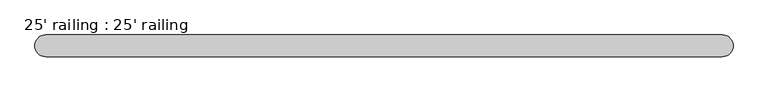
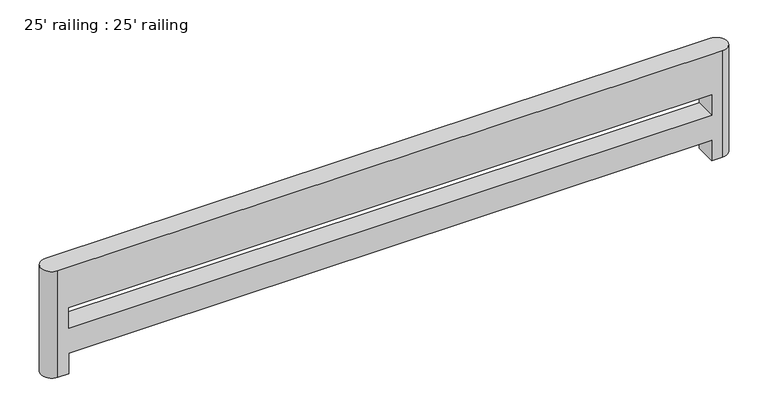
"""IFC4 building model written with IfcOpenShell, lengths in millimetres: railing geometry, 25' railing : 25' railing."""

from ifc_helpers import new_model, si_unit, frame, origin, place, context, project, spatial, circle_curve, source, transform, mapped, element, save
from ifc_brep_helpers import plane_surface, cylinder_surface, advanced_brep


def railing_25_railing_25_railing_fa361975(model_context):
    return source(origin(), model_context, "Body", "AdvancedBrep", [
        advanced_brep(
        [(3149.6, -101.6, 1066.8), (3149.6, 101.6, 1066.8), (-3149.6, 101.6, 1066.8), (-3149.6, -101.6, 1066.8), (3149.6, -101.6, 0.0), (3048.0, -101.6, 0.0), (3048.0, 101.6, 0.0), (3149.6, 101.6, 0.0), (-3149.6, 101.6, 0.0), (-3048.0, 101.6, 0.0), (-3048.0, -101.6, 0.0), (-3149.6, -101.6, 0.0), (-3048.0, -101.6, 203.2), (3048.0, -101.6, 203.2), (-3048.0, -101.6, 660.4), (3048.0, -101.6, 660.4), (3048.0, -101.6, 457.2), (-3048.0, -101.6, 457.2), (3048.0, 101.6, 203.2), (-3048.0, 101.6, 203.2), (-3048.0, 101.6, 457.2), (3048.0, 101.6, 457.2), (3048.0, 101.6, 660.4), (-3048.0, 101.6, 660.4)],
        [
            (0, 1, circle_curve(frame((3149.6, 0.0, 1066.8), z_axis=(0.0, 0.0, 1.0), x_axis=(1.0, 0.0, 0.0)), 101.6)),
            (1, 2),
            (2, 3, circle_curve(frame((-3149.6, 0.0, 1066.8), z_axis=(0.0, 0.0, 1.0), x_axis=(1.0, 0.0, 0.0)), 101.6)),
            (3, 0),
            (4, 5),
            (5, 6),
            (6, 7),
            (7, 4, circle_curve(frame((3149.6, 0.0, 0.0), z_axis=(0.0, 0.0, -1.0), x_axis=(1.0, 0.0, 0.0)), 101.6)),
            (8, 9),
            (9, 10),
            (10, 11),
            (11, 8, circle_curve(frame((-3149.6, 0.0, 0.0), z_axis=(0.0, 0.0, -1.0), x_axis=(1.0, 0.0, 0.0)), 101.6)),
            (3, 11),
            (10, 12),
            (12, 13),
            (13, 5),
            (4, 0),
            (14, 15),
            (15, 16),
            (16, 17),
            (17, 14),
            (2, 8),
            (1, 7),
            (6, 18),
            (18, 19),
            (19, 9),
            (20, 21),
            (21, 22),
            (22, 23),
            (23, 20),
            (13, 18),
            (12, 19),
            (23, 14),
            (17, 20),
            (16, 21),
            (15, 22),
        ],
        [
            plane_surface(frame((-3251.2, -101.6, 1066.8), z_axis=(0.0, 0.0, 1.0), x_axis=(-1.0, 0.0, 0.0))),
            plane_surface(frame((-3251.2, -101.6, 0.0), z_axis=(0.0, 0.0, -1.0), x_axis=(1.0, 0.0, 0.0))),
            plane_surface(frame((3149.6, -101.6, 1066.8), z_axis=(0.0, -1.0, 0.0), x_axis=(0.0, 0.0, -1.0))),
            cylinder_surface(frame((-3149.6, 0.0, 0.0), z_axis=(0.0, 0.0, 1.0), x_axis=(1.0, 0.0, 0.0)), 101.6),
            plane_surface(frame((-3149.6, 101.6, 1066.8), z_axis=(0.0, 1.0, 0.0), x_axis=(0.0, 0.0, -1.0))),
            cylinder_surface(frame((3149.6, 0.0, 0.0), z_axis=(0.0, 0.0, 1.0), x_axis=(1.0, 0.0, 0.0)), 101.6),
            plane_surface(frame((3048.0, 101.6, 0.0), z_axis=(-1.0, 0.0, 0.0), x_axis=(0.0, -1.0, 0.0))),
            plane_surface(frame((3048.0, 101.6, 203.2), z_axis=(0.0, 0.0, -1.0), x_axis=(0.0, -1.0, 0.0))),
            plane_surface(frame((-3048.0, 101.6, 203.2), z_axis=(1.0, 0.0, 0.0), x_axis=(0.0, -1.0, 0.0))),
            plane_surface(frame((-3048.0, 101.6, 660.4), z_axis=(1.0, 0.0, 0.0), x_axis=(0.0, -1.0, 0.0))),
            plane_surface(frame((-3048.0, 101.6, 457.2), z_axis=(0.0, 0.0, 1.0), x_axis=(0.0, -1.0, 0.0))),
            plane_surface(frame((3048.0, 101.6, 457.2), z_axis=(-1.0, 0.0, 0.0), x_axis=(0.0, -1.0, 0.0))),
            plane_surface(frame((3048.0, 101.6, 660.4), z_axis=(0.0, 0.0, -1.0), x_axis=(0.0, -1.0, 0.0))),
        ],
        [
            (0, [[1, 2, 3, 4]]),
            (1, [[5, 6, 7, 8]]),
            (1, [[9, 10, 11, 12]]),
            (2, [[13, -11, 14, 15, 16, -5, 17, -4], [18, 19, 20, 21]]),
            (3, [[22, -12, -13, -3]]),
            (4, [[23, -7, 24, 25, 26, -9, -22, -2], [27, 28, 29, 30]]),
            (5, [[-17, -8, -23, -1]]),
            (6, [[-24, -6, -16, 31]]),
            (7, [[-15, 32, -25, -31]]),
            (8, [[-14, -10, -26, -32]]),
            (9, [[-30, 33, -21, 34]]),
            (10, [[-20, 35, -27, -34]]),
            (11, [[-19, 36, -28, -35]]),
            (12, [[-29, -36, -18, -33]]),
        ],
    ),
    ])


if __name__ == "__main__":
    model = new_model("IFC4")
    model_context = context("Model", 3, world=origin())
    ifc_project = project(units=[si_unit("LENGTHUNIT", "METRE", prefix="MILLI")], contexts=[model_context])
    site = spatial("IfcSite", under=ifc_project)
    building = spatial("IfcBuilding", under=site)
    placement = place(None, origin())
    railing_25_railing_25_railing_shape = railing_25_railing_25_railing_fa361975(model_context)
    element("IfcRailing", 1, ObjectType="25' railing : 25' railing", at=placement, inside=building, context=model_context, shape_type="MappedRepresentation", body=[
        mapped(railing_25_railing_25_railing_shape, transform((0.0, 0.0, 0.0), x_axis=(1.0, 0.0, 0.0), y_axis=(0.0, 1.0, 0.0), z_axis=(0.0, 0.0, 1.0))),
    ])
    save(model, "model.ifc")
